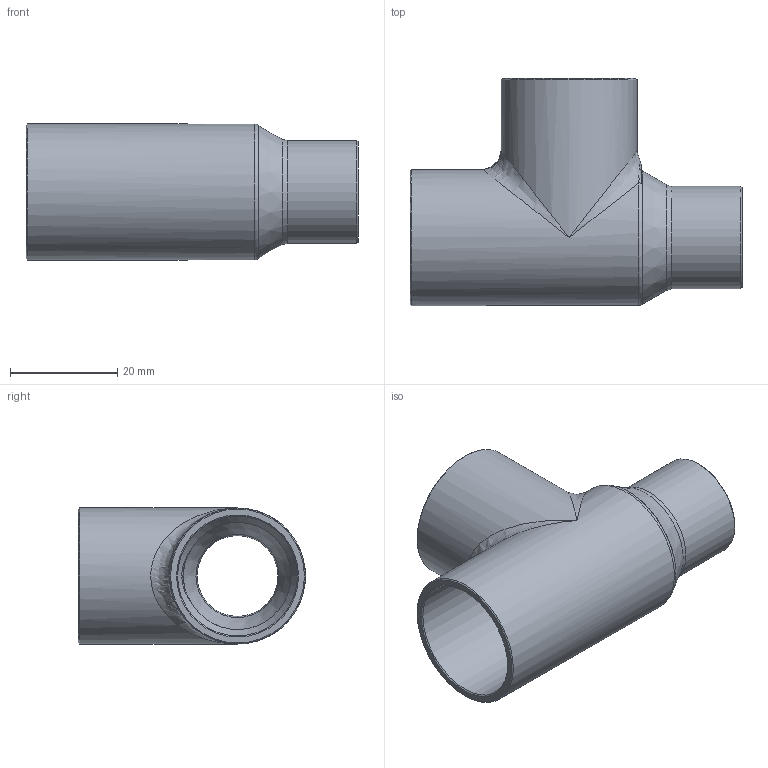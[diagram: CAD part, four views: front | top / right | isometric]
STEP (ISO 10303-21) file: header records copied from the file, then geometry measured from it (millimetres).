
FILE_DESCRIPTION((''),'2;1');
FILE_NAME('G:\SANHA-Ternat\Technik\Management\Bouwmaten + markeringen\z-maattekeningen 3D\29000s\29130787858_3d.stp','2017-08-01T11:25:19',('vdvijverd'),(''),'Autodesk Inventor 2009','Autodesk Inventor 2009','');
FILE_SCHEMA(('AUTOMOTIVE_DESIGN { 1 0 10303 214 1 1 1 1 }'));
Length unit declared in the file: millimetre
Products named in the file (1): 29130787858_3d
Bounding box: 62 x 42.4 x 25.4 mm (x, y, z)
Volume: 10671.7 mm3; surface area: 11039.1 mm2
Topology: 1 solids, 1 shells, 35 faces, 90 edges, 52 vertices
Faces by surface type: cone 11, cylinder 9, bspline 8, plane 4, torus 3
Full cylindrical faces by diameter (mm): 15.995 x1, 19.195 x1, 22.375 x2, 25.4 x2
Entity records: 2471 total; most frequent: CARTESIAN_POINT 1761, DIRECTION 140, ORIENTED_EDGE 120, AXIS2_PLACEMENT_3D 70, EDGE_CURVE 60, EDGE_LOOP 58, VERTEX_POINT 46, FACE_OUTER_BOUND 35
